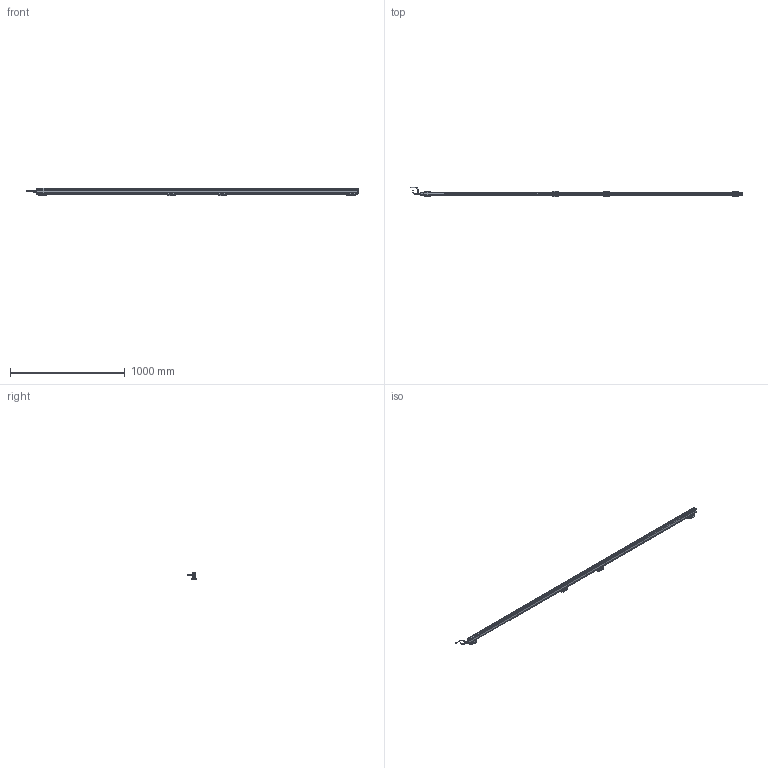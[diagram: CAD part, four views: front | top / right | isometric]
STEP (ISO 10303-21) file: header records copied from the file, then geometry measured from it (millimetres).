
FILE_DESCRIPTION(('Bauteilbeschreibung','HiCAD-Model','HiCAD-STEP-TRANSLATION','Bauteilbeschreibung'),'2;1');
FILE_NAME('PERFORMAXIQEASY_2730-2820_3D.STP','2014-03-05T13:08:33+00:00',('Konstrukteur'),('Konstrukteur Firma GmbH'),' HiCAD 2011, Step 1600.0 ','HiCAD 2011','confidential');
FILE_SCHEMA(('AUTOMOTIVE_DESIGN { 1 2 10303 214 0 1 1 1 }'));
Products named in the file (46): PERFORMAXIQEASY_2730_2820_3D; A_PERFORMAX IQ EASY 2730_2820; A_PERFORMAX IQ EASY SPEED; A_CAP DE; A_CAP CE_5; LED_2C_3MM; LED02C03MM; A519020315_CONNECTOR APPLIANCE; A_INSERT; A_CONTACTS; A_HOUSING; A_PROFILE; A_POTTING; PIN; PIN0; A532000100_BRACKET BARS_ MOUNT; A_SIDE PIECE; A0SIDE0PIECE; A_BRACKET SMALL; A_SLIDE PIECE; A5320001000BRACKET0BARS00MOUNT; A0SIDE0PIECE0; A0SIDE0PIECE1; A0BRACKET0SMALL; A0SLIDE0PIECE; A5320001000BRACKET0BARS00MOUNT0; A0SIDE0PIECE2; A0SIDE0PIECE3; A0BRACKET0SMALL0; A0SLIDE0PIECE0; A0SIDE0PIECE4; A0SIDE0PIECE5; A0BRACKET0SMALL1; A0SLIDE0PIECE1; A_CONNECTOR STRAIGHT; EXTRUDED SOLID_0; DRAAD GEBOGEN; REVOLVED SOLID_1; REVOLVED SOLID_3; A_CONNECTOR ANGLED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
Assembly tree (45 placements, depth 5):
  PERFORMAXIQEASY_2730_2820_3D
    A_PERFORMAX IQ EASY 2730_2820
      A_PERFORMAX IQ EASY SPEED
        A_CAP DE
        A_CAP CE_5
        LED_2C_3MM
        LED02C03MM
        A519020315_CONNECTOR APPLIANCE
          A_INSERT
          A_CONTACTS
          A_HOUSING
        A_PROFILE
        A_POTTING
        PIN
        PIN0
      A532000100_BRACKET BARS_ MOUNT
        A_SIDE PIECE
        A0SIDE0PIECE
        A_BRACKET SMALL
        A_SLIDE PIECE
      A5320001000BRACKET0BARS00MOUNT
        A0SIDE0PIECE0
        A0SIDE0PIECE1
        A0BRACKET0SMALL
        A0SLIDE0PIECE
      A5320001000BRACKET0BARS00MOUNT0
        A0SIDE0PIECE2
        A0SIDE0PIECE3
        A0BRACKET0SMALL0
        A0SLIDE0PIECE0
      A5320001000BRACKET0BARS00MOUNT0
        A0SIDE0PIECE4
        A0SIDE0PIECE5
        A0BRACKET0SMALL1
        A0SLIDE0PIECE1
      A_CONNECTOR STRAIGHT
        EXTRUDED SOLID_0
        DRAAD GEBOGEN
        REVOLVED SOLID_1
        REVOLVED SOLID_3
      A_CONNECTOR ANGLED
        REVOLVED0SOLID01
        EXTRUDED0SOLID00
        C_EDGE SWEEP_0
        REVOLVED SOLID_2
        REVOLVED0SOLID03
Bounding box: 2897.89 x 84.22 x 63.13 mm (x, y, z)
Volume: 2897666.3 mm3; surface area: 702443.6 mm2
Topology: 41 solids, 41 shells, 3447 faces, 8839 edges, 5258 vertices
Faces by surface type: cylinder 1457, plane 1315, sphere 222, torus 205, bspline 168, cone 80
Full cylindrical faces by diameter (mm): 0.8 x10, 1 x5, 2.387 x8, 3 x19, 3.1 x1, 4.2 x2, 5 x4, 5.5 x20, 8 x2, 8.2 x1, 8.4 x2, 8.945 x1, 9 x2, 10.2 x1, 10.5 x3, 11 x1, 12 x3, 12.8 x1, 13.8 x4, 14.5 x3
Entity records: 159221 total; most frequent: CARTESIAN_POINT 37152, DIRECTION 17145, ORIENTED_EDGE 16748, EDGE_CURVE 8374, COLOUR_RGB 7959, PRESENTATION_STYLE_ASSIGNMENT 7959, OVER_RIDING_STYLED_ITEM 7923, CURVE_STYLE 7918
